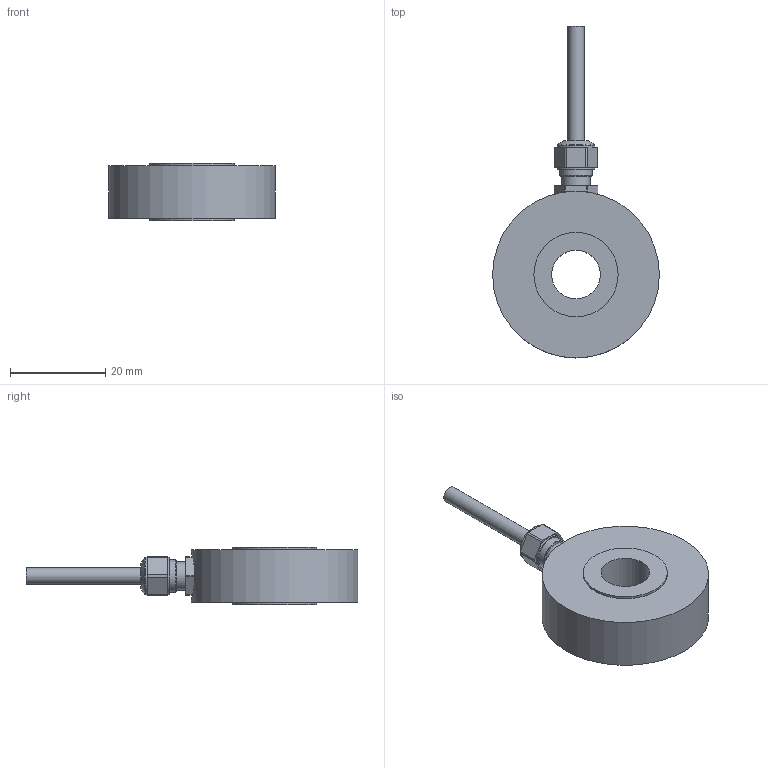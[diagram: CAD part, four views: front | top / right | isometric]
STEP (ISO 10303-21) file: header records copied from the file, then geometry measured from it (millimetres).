
FILE_DESCRIPTION(/* description */ (''),/* implementation_level */ '2;1');
FILE_NAME(/* name */ 'I:/New Datasheets/STEP Models/Pending models/CCG-35kN-003-000.step',/* time_stamp */ '2019-08-16T13:48:52+01:00',/* author */ (''),/* organization */ (''),/* preprocessor_version */ 'ST-DEVELOPER v18',/* originating_system */ 'Autodesk Translation Framework v8.6.0.1094',/* authorisation */ '');
FILE_SCHEMA (('AUTOMOTIVE_DESIGN { 1 0 10303 214 3 1 1 }'));
Length unit declared in the file: millimetre
Products named in the file (2): CCG-35kN-003-000 -; CCG-35kN-003-000
Assembly tree (1 placements, depth 2):
  CCG-35kN-003-000 -
    CCG-35kN-003-000
Bounding box: 35 x 69.68 x 12 mm (x, y, z)
Volume: 10429.7 mm3; surface area: 4624.2 mm2
Topology: 1 solids, 4 shells, 88 faces, 219 edges, 154 vertices
Faces by surface type: plane 35, cylinder 33, cone 12, torus 8
Full cylindrical faces by diameter (mm): 3.4 x2, 3.6 x1, 3.7 x1, 4.7 x1, 4.773 x1, 4.8 x2, 5.035 x2, 5.93 x1, 6.2 x1, 6.38 x1, 6.84 x1, 7.9 x2, 10 x1, 10.2 x1, 17.7 x2, 35 x1
Entity records: 2803 total; most frequent: CARTESIAN_POINT 522, DIRECTION 521, ORIENTED_EDGE 436, AXIS2_PLACEMENT_3D 226, EDGE_CURVE 218, VERTEX_POINT 154, CIRCLE 135, EDGE_LOOP 110
